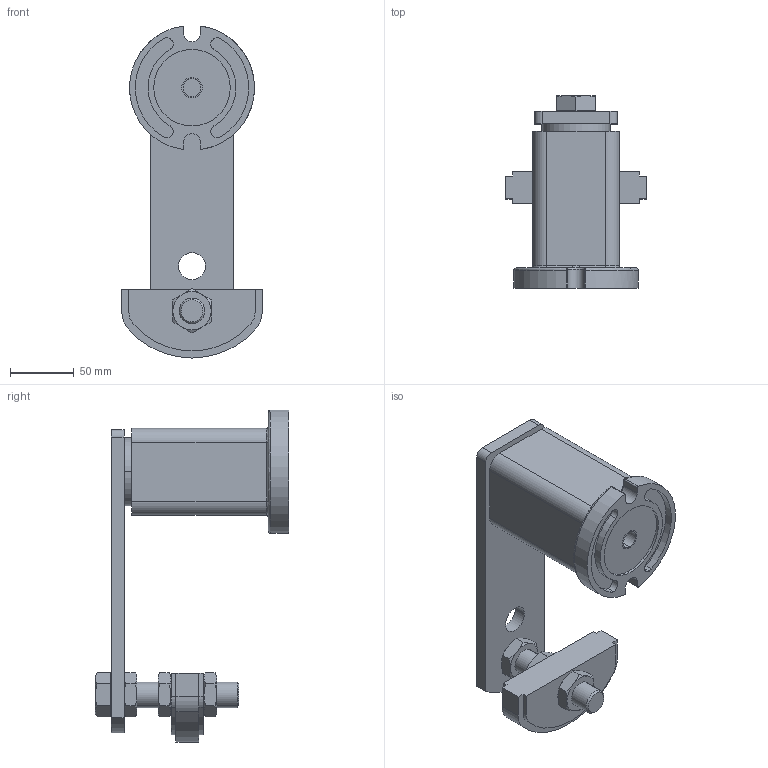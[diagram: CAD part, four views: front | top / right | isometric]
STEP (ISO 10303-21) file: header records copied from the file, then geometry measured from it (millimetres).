
FILE_DESCRIPTION (( 'STEP AP203' ), '1' );
FILE_NAME ('EGE5 - 1_1-4S cod. 94073101.STEP', '2017-08-25T14:46:18', ( '' ), ( '' ), 'SwSTEP 2.0', 'SolidWorks 2016', '' );
FILE_SCHEMA (( 'CONFIG_CONTROL_DESIGN' ));
Length unit declared in the file: millimetre
Products named in the file (9): E5-BASE; ISO - 4035 - M20 - N_ISO - 4035 - M20 - N; ISO 4017 - M20 x 100-C_ISO 4017 - M20 x 100-C; Leva E5; EGE5 - 1_1-4S cod. 94073101; E5 cod. 94070005; GE 1_1-4S M20 cod. 94093101; DS 20-23-25; GE-P ISO 20B-1-M20
Assembly tree (10 placements, depth 3):
  EGE5 - 1_1-4S cod. 94073101
    E5 cod. 94070005
      E5-BASE
      Leva E5
    GE 1_1-4S M20 cod. 94093101
      GE-P ISO 20B-1-M20
      DS 20-23-25
      ISO 4017 - M20 x 100-C_ISO 4017 - M20 x 100-C
      ISO - 4035 - M20 - N_ISO - 4035 - M20 - N  x3
Bounding box: 110 x 151.5 x 260.41 mm (x, y, z)
Volume: 484764.2 mm3; surface area: 169960.8 mm2
Topology: 7 solids, 9 shells, 239 faces, 552 edges, 336 vertices
Faces by surface type: cylinder 87, plane 79, cone 56, bspline 15, torus 2
Entity records: 7710 total; most frequent: CARTESIAN_POINT 2479, DIRECTION 931, ORIENTED_EDGE 860, EDGE_CURVE 432, AXIS2_PLACEMENT_3D 374, VERTEX_POINT 268, EDGE_LOOP 202, CIRCLE 190
